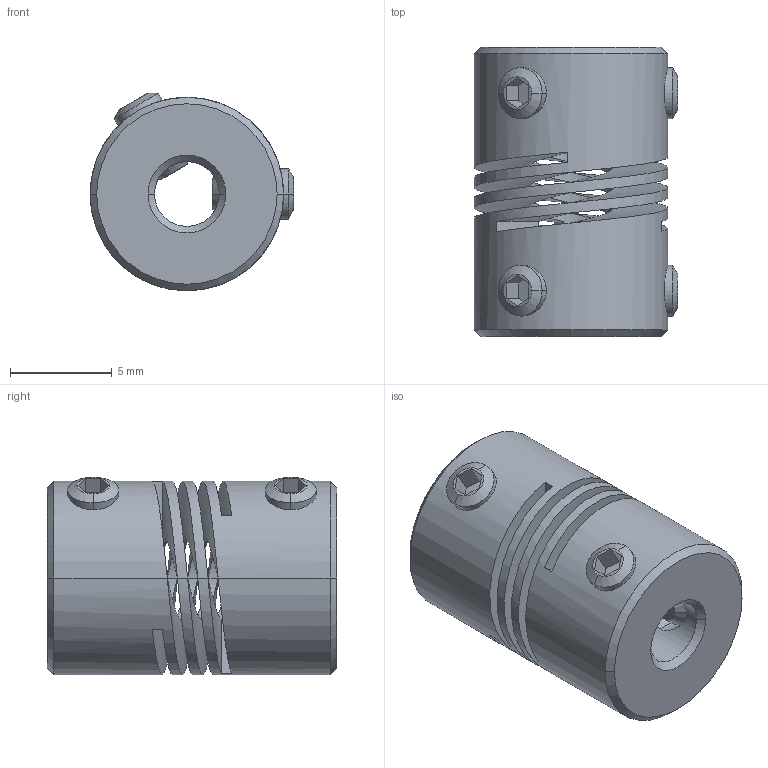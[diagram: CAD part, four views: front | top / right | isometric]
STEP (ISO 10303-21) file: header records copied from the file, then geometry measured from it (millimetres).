
FILE_DESCRIPTION((''),'2;1');
FILE_NAME('724_09_ASM','2006-12-05T',('Gary Melling'),(''),'PRO/ENGINEER BY PARAMETRIC TECHNOLOGY CORPORATION, 2006240','PRO/ENGINEER BY PARAMETRIC TECHNOLOGY CORPORATION, 2006240','');
FILE_SCHEMA(('CONFIG_CONTROL_DESIGN'));
Length unit declared in the file: millimetre
Products named in the file (3): 724_9; GS_2-5; 724_09_ASM
Assembly tree (5 placements, depth 2):
  724_09_ASM
    724_9
    GS_2-5  x4
Bounding box: 10 x 14.2 x 9.7 mm (x, y, z)
Volume: 765.1 mm3; surface area: 1265.9 mm2
Topology: 5 solids, 5 shells, 108 faces, 282 edges, 180 vertices
Faces by surface type: plane 46, cylinder 32, cone 24, bspline 6
Entity records: 3467 total; most frequent: CARTESIAN_POINT 1770, ORIENTED_EDGE 372, DIRECTION 284, EDGE_CURVE 186, VERTEX_POINT 120, AXIS2_PLACEMENT_3D 97, VECTOR 90, LINE 90
